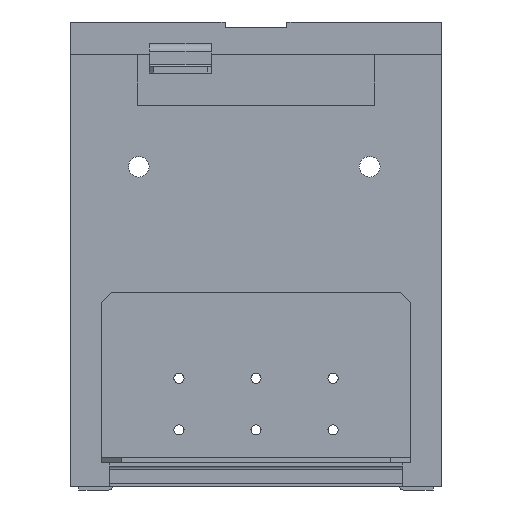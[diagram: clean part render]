
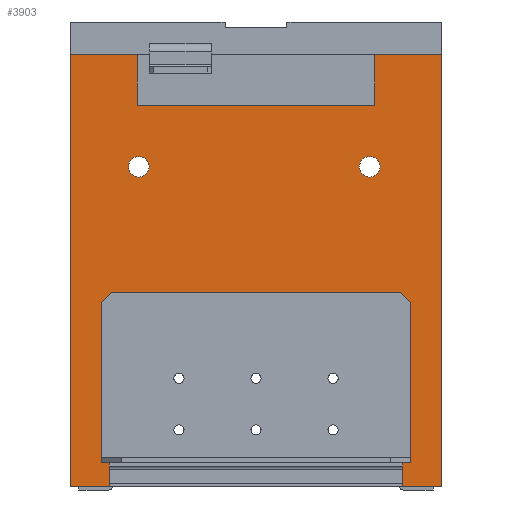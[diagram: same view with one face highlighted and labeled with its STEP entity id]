
A CAD part, left-side view. The second image highlights one B-rep face of the part: STEP entity #3903.
In plain terms, the highlighted planar face has unit normal (-1, 0, 0).
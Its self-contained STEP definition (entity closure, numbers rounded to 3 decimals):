
#1263=AXIS2_PLACEMENT_3D('Circle Axis2P3D',#1261,#1262,$) ;
#1289=AXIS2_PLACEMENT_3D('Circle Axis2P3D',#1287,#1288,$) ;
#1320=AXIS2_PLACEMENT_3D('Circle Axis2P3D',#1318,#1319,$) ;
#1346=AXIS2_PLACEMENT_3D('Circle Axis2P3D',#1344,#1345,$) ;
#3849=AXIS2_PLACEMENT_3D('Plane Axis2P3D',#3846,#3847,#3848) ;
#341=CARTESIAN_POINT('Vertex',(-302.1,-90.,209.18)) ;
#344=CARTESIAN_POINT('Line Origine',(-302.1,-90.,104.59)) ;
#348=CARTESIAN_POINT('Vertex',(-302.1,-90.,0.)) ;
#650=CARTESIAN_POINT('Vertex',(-302.1,71.,0.)) ;
#653=CARTESIAN_POINT('Line Origine',(-302.1,80.5,0.)) ;
#657=CARTESIAN_POINT('Vertex',(-302.1,90.,0.)) ;
#763=CARTESIAN_POINT('Vertex',(-302.1,71.,1.5)) ;
#766=CARTESIAN_POINT('Line Origine',(-302.1,71.,0.75)) ;
#907=CARTESIAN_POINT('Line Origine',(-302.1,0.,1.5)) ;
#911=CARTESIAN_POINT('Vertex',(-302.1,-71.,1.5)) ;
#949=CARTESIAN_POINT('Vertex',(-302.1,-71.,0.)) ;
#952=CARTESIAN_POINT('Line Origine',(-302.1,-71.,0.75)) ;
#982=CARTESIAN_POINT('Vertex',(-302.1,57.4,209.18)) ;
#985=CARTESIAN_POINT('Line Origine',(-302.1,57.4,196.93)) ;
#989=CARTESIAN_POINT('Vertex',(-302.1,57.4,184.68)) ;
#1040=CARTESIAN_POINT('Line Origine',(-302.1,0.,184.68)) ;
#1044=CARTESIAN_POINT('Vertex',(-302.1,-57.4,184.68)) ;
#1258=CARTESIAN_POINT('Vertex',(-302.1,56.759,159.9)) ;
#1261=CARTESIAN_POINT('Axis2P3D Location',(-302.1,56.759,154.9)) ;
#1265=CARTESIAN_POINT('Vertex',(-302.1,56.759,149.9)) ;
#1287=CARTESIAN_POINT('Axis2P3D Location',(-302.1,56.759,154.9)) ;
#1315=CARTESIAN_POINT('Vertex',(-302.1,-55.059,159.9)) ;
#1318=CARTESIAN_POINT('Axis2P3D Location',(-302.1,-55.059,154.9)) ;
#1322=CARTESIAN_POINT('Vertex',(-302.1,-55.059,149.9)) ;
#1344=CARTESIAN_POINT('Axis2P3D Location',(-302.1,-55.059,154.9)) ;
#1722=CARTESIAN_POINT('Vertex',(-302.1,75.,11.6)) ;
#1725=CARTESIAN_POINT('Line Origine',(-302.1,0.,11.6)) ;
#1729=CARTESIAN_POINT('Vertex',(-302.1,-75.,11.6)) ;
#1898=CARTESIAN_POINT('Vertex',(-302.1,-75.,89.1)) ;
#1922=CARTESIAN_POINT('Line Origine',(-302.1,-75.,50.35)) ;
#3050=CARTESIAN_POINT('Vertex',(-302.1,-70.,94.1)) ;
#3053=CARTESIAN_POINT('Line Origine',(-302.1,0.,94.1)) ;
#3057=CARTESIAN_POINT('Vertex',(-302.1,70.,94.1)) ;
#3077=CARTESIAN_POINT('Line Origine',(-302.1,-72.5,91.6)) ;
#3089=CARTESIAN_POINT('Line Origine',(-302.1,75.,50.35)) ;
#3093=CARTESIAN_POINT('Vertex',(-302.1,75.,89.1)) ;
#3115=CARTESIAN_POINT('Line Origine',(-302.1,72.5,91.6)) ;
#3597=CARTESIAN_POINT('Line Origine',(-302.1,-57.4,196.93)) ;
#3601=CARTESIAN_POINT('Vertex',(-302.1,-57.4,209.18)) ;
#3846=CARTESIAN_POINT('Axis2P3D Location',(-302.1,0.,209.18)) ;
#3851=CARTESIAN_POINT('Line Origine',(-302.1,73.7,209.18)) ;
#3855=CARTESIAN_POINT('Vertex',(-302.1,90.,209.18)) ;
#3858=CARTESIAN_POINT('Line Origine',(-302.1,90.,104.59)) ;
#3863=CARTESIAN_POINT('Line Origine',(-302.1,-80.5,0.)) ;
#3868=CARTESIAN_POINT('Line Origine',(-302.1,-73.7,209.18)) ;
#345=DIRECTION('Vector Direction',(0.,0.,-1.)) ;
#654=DIRECTION('Vector Direction',(0.,1.,0.)) ;
#767=DIRECTION('Vector Direction',(0.,0.,1.)) ;
#908=DIRECTION('Vector Direction',(0.,1.,0.)) ;
#953=DIRECTION('Vector Direction',(0.,0.,1.)) ;
#986=DIRECTION('Vector Direction',(0.,0.,-1.)) ;
#1041=DIRECTION('Vector Direction',(0.,1.,0.)) ;
#1262=DIRECTION('Axis2P3D Direction',(-1.,0.,0.)) ;
#1288=DIRECTION('Axis2P3D Direction',(-1.,0.,0.)) ;
#1319=DIRECTION('Axis2P3D Direction',(-1.,0.,0.)) ;
#1345=DIRECTION('Axis2P3D Direction',(-1.,0.,0.)) ;
#1726=DIRECTION('Vector Direction',(0.,1.,0.)) ;
#1923=DIRECTION('Vector Direction',(0.,0.,-1.)) ;
#3054=DIRECTION('Vector Direction',(0.,1.,0.)) ;
#3078=DIRECTION('Vector Direction',(0.,-0.707,-0.707)) ;
#3090=DIRECTION('Vector Direction',(0.,0.,-1.)) ;
#3116=DIRECTION('Vector Direction',(0.,0.707,-0.707)) ;
#3598=DIRECTION('Vector Direction',(0.,0.,1.)) ;
#3847=DIRECTION('Axis2P3D Direction',(1.,-0.,0.)) ;
#3848=DIRECTION('Axis2P3D XDirection',(0.,0.,-1.)) ;
#3852=DIRECTION('Vector Direction',(0.,1.,0.)) ;
#3859=DIRECTION('Vector Direction',(0.,0.,-1.)) ;
#3864=DIRECTION('Vector Direction',(0.,1.,0.)) ;
#3869=DIRECTION('Vector Direction',(0.,1.,0.)) ;
#346=VECTOR('Line Direction',#345,1.) ;
#655=VECTOR('Line Direction',#654,1.) ;
#768=VECTOR('Line Direction',#767,1.) ;
#909=VECTOR('Line Direction',#908,1.) ;
#954=VECTOR('Line Direction',#953,1.) ;
#987=VECTOR('Line Direction',#986,1.) ;
#1042=VECTOR('Line Direction',#1041,1.) ;
#1727=VECTOR('Line Direction',#1726,1.) ;
#1924=VECTOR('Line Direction',#1923,1.) ;
#3055=VECTOR('Line Direction',#3054,1.) ;
#3079=VECTOR('Line Direction',#3078,1.) ;
#3091=VECTOR('Line Direction',#3090,1.) ;
#3117=VECTOR('Line Direction',#3116,1.) ;
#3599=VECTOR('Line Direction',#3598,1.) ;
#3853=VECTOR('Line Direction',#3852,1.) ;
#3860=VECTOR('Line Direction',#3859,1.) ;
#3865=VECTOR('Line Direction',#3864,1.) ;
#3870=VECTOR('Line Direction',#3869,1.) ;
#3874=ORIENTED_EDGE('',*,*,#3603,.T.) ;
#3875=ORIENTED_EDGE('',*,*,#1046,.T.) ;
#3876=ORIENTED_EDGE('',*,*,#991,.T.) ;
#3877=ORIENTED_EDGE('',*,*,#3857,.T.) ;
#3878=ORIENTED_EDGE('',*,*,#3862,.F.) ;
#3879=ORIENTED_EDGE('',*,*,#659,.F.) ;
#3880=ORIENTED_EDGE('',*,*,#770,.T.) ;
#3881=ORIENTED_EDGE('',*,*,#913,.F.) ;
#3882=ORIENTED_EDGE('',*,*,#956,.F.) ;
#3883=ORIENTED_EDGE('',*,*,#3867,.F.) ;
#3884=ORIENTED_EDGE('',*,*,#350,.T.) ;
#3885=ORIENTED_EDGE('',*,*,#3872,.T.) ;
#3888=ORIENTED_EDGE('',*,*,#3059,.F.) ;
#3889=ORIENTED_EDGE('',*,*,#3081,.F.) ;
#3890=ORIENTED_EDGE('',*,*,#1926,.T.) ;
#3891=ORIENTED_EDGE('',*,*,#1731,.T.) ;
#3892=ORIENTED_EDGE('',*,*,#3095,.F.) ;
#3893=ORIENTED_EDGE('',*,*,#3119,.F.) ;
#3896=ORIENTED_EDGE('',*,*,#1291,.T.) ;
#3897=ORIENTED_EDGE('',*,*,#1267,.T.) ;
#3900=ORIENTED_EDGE('',*,*,#1348,.T.) ;
#3901=ORIENTED_EDGE('',*,*,#1324,.T.) ;
#3894=FACE_BOUND('',#3887,.T.) ;
#3898=FACE_BOUND('',#3895,.T.) ;
#3902=FACE_BOUND('',#3899,.T.) ;
#3903=ADVANCED_FACE('\X2\6A217EC4\X0\',(#3886,#3894,#3898,#3902),#3850,.F.) ;
#1264=CIRCLE('generated circle',#1263,5.) ;
#1290=CIRCLE('generated circle',#1289,5.) ;
#1321=CIRCLE('generated circle',#1320,5.) ;
#1347=CIRCLE('generated circle',#1346,5.) ;
#350=EDGE_CURVE('',#349,#342,#347,.F.) ;
#659=EDGE_CURVE('',#651,#658,#656,.T.) ;
#770=EDGE_CURVE('',#651,#764,#769,.T.) ;
#913=EDGE_CURVE('',#912,#764,#910,.T.) ;
#956=EDGE_CURVE('',#950,#912,#955,.T.) ;
#991=EDGE_CURVE('',#990,#983,#988,.F.) ;
#1046=EDGE_CURVE('',#1045,#990,#1043,.T.) ;
#1267=EDGE_CURVE('',#1266,#1259,#1264,.F.) ;
#1291=EDGE_CURVE('',#1259,#1266,#1290,.F.) ;
#1324=EDGE_CURVE('',#1323,#1316,#1321,.F.) ;
#1348=EDGE_CURVE('',#1316,#1323,#1347,.F.) ;
#1731=EDGE_CURVE('',#1730,#1723,#1728,.T.) ;
#1926=EDGE_CURVE('',#1899,#1730,#1925,.T.) ;
#3059=EDGE_CURVE('',#3051,#3058,#3056,.T.) ;
#3081=EDGE_CURVE('',#1899,#3051,#3080,.F.) ;
#3095=EDGE_CURVE('',#3094,#1723,#3092,.T.) ;
#3119=EDGE_CURVE('',#3058,#3094,#3118,.T.) ;
#3603=EDGE_CURVE('',#3602,#1045,#3600,.F.) ;
#3857=EDGE_CURVE('',#983,#3856,#3854,.T.) ;
#3862=EDGE_CURVE('',#658,#3856,#3861,.F.) ;
#3867=EDGE_CURVE('',#349,#950,#3866,.T.) ;
#3872=EDGE_CURVE('',#342,#3602,#3871,.T.) ;
#3873=EDGE_LOOP('',(#3874,#3875,#3876,#3877,#3878,#3879,#3880,#3881,#3882,#3883,#3884,#3885)) ;
#3887=EDGE_LOOP('',(#3888,#3889,#3890,#3891,#3892,#3893)) ;
#3895=EDGE_LOOP('',(#3896,#3897)) ;
#3899=EDGE_LOOP('',(#3900,#3901)) ;
#3886=FACE_OUTER_BOUND('',#3873,.T.) ;
#347=LINE('Line',#344,#346) ;
#656=LINE('Line',#653,#655) ;
#769=LINE('Line',#766,#768) ;
#910=LINE('Line',#907,#909) ;
#955=LINE('Line',#952,#954) ;
#988=LINE('Line',#985,#987) ;
#1043=LINE('Line',#1040,#1042) ;
#1728=LINE('Line',#1725,#1727) ;
#1925=LINE('Line',#1922,#1924) ;
#3056=LINE('Line',#3053,#3055) ;
#3080=LINE('Line',#3077,#3079) ;
#3092=LINE('Line',#3089,#3091) ;
#3118=LINE('Line',#3115,#3117) ;
#3600=LINE('Line',#3597,#3599) ;
#3854=LINE('Line',#3851,#3853) ;
#3861=LINE('Line',#3858,#3860) ;
#3866=LINE('Line',#3863,#3865) ;
#3871=LINE('Line',#3868,#3870) ;
#3850=PLANE('',#3849) ;
#342=VERTEX_POINT('',#341) ;
#349=VERTEX_POINT('',#348) ;
#651=VERTEX_POINT('',#650) ;
#658=VERTEX_POINT('',#657) ;
#764=VERTEX_POINT('',#763) ;
#912=VERTEX_POINT('',#911) ;
#950=VERTEX_POINT('',#949) ;
#983=VERTEX_POINT('',#982) ;
#990=VERTEX_POINT('',#989) ;
#1045=VERTEX_POINT('',#1044) ;
#1259=VERTEX_POINT('',#1258) ;
#1266=VERTEX_POINT('',#1265) ;
#1316=VERTEX_POINT('',#1315) ;
#1323=VERTEX_POINT('',#1322) ;
#1723=VERTEX_POINT('',#1722) ;
#1730=VERTEX_POINT('',#1729) ;
#1899=VERTEX_POINT('',#1898) ;
#3051=VERTEX_POINT('',#3050) ;
#3058=VERTEX_POINT('',#3057) ;
#3094=VERTEX_POINT('',#3093) ;
#3602=VERTEX_POINT('',#3601) ;
#3856=VERTEX_POINT('',#3855) ;
